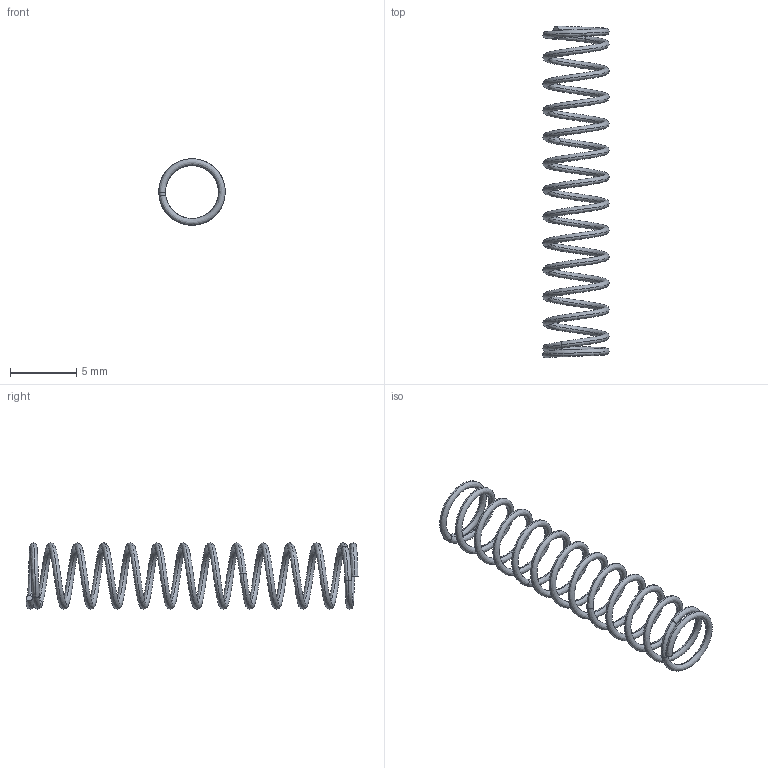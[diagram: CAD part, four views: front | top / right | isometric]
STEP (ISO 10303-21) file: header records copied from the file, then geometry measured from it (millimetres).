
FILE_DESCRIPTION((''),'2;1');
FILE_NAME('Y_JG_WJ_A00220-01','2024-02-22T09:41:55',('qinghui.yi'),(''),'CREO PARAMETRIC BY PTC INC, 2019164','CREO PARAMETRIC BY PTC INC, 2019164','');
FILE_SCHEMA(('CONFIG_CONTROL_DESIGN','SHAPE_APPEARANCE_LAYERS_GROUPS'));
Length unit declared in the file: millimetre
Products named in the file (1): Y_JG_WJ_A00220-01
Bounding box: 5 x 25 x 5 mm (x, y, z)
Volume: 38.3 mm3; surface area: 308.7 mm2
Topology: 1 solids, 1 shells, 16 faces, 33 edges, 22 vertices
Faces by surface type: bspline 14, plane 2
Entity records: 3193 total; most frequent: CARTESIAN_POINT 2584, COLOUR_RGB 312, ORIENTED_EDGE 60, B_SPLINE_CURVE_WITH_KNOTS 30, EDGE_CURVE 30, VERTEX_POINT 16, EDGE_LOOP 16, FACE_OUTER_BOUND 16
